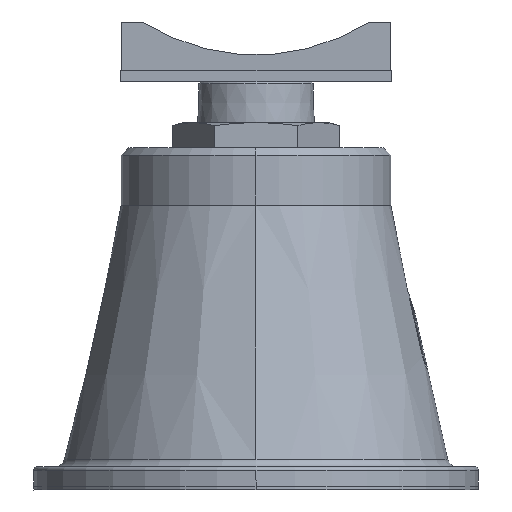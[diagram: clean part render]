
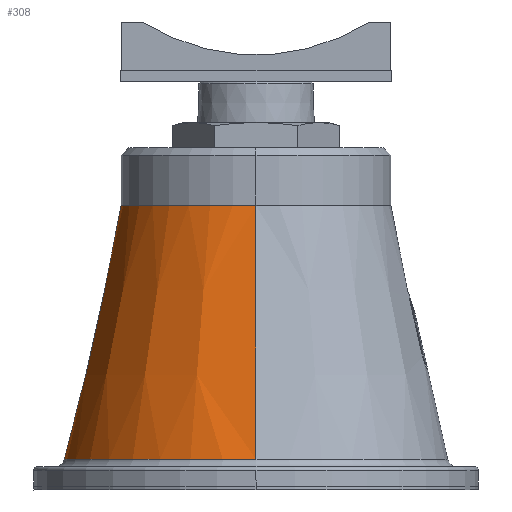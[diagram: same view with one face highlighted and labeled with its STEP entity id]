
A CAD part, left-side view. The second image highlights one B-rep face of the part: STEP entity #308.
In plain terms, the highlighted conical face has half-angle 12.633 degrees and reference radius 84.432 mm.
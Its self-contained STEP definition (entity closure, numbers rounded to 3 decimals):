
#308=ADVANCED_FACE('',(#643),#644,.T.);
#643=FACE_OUTER_BOUND('',#1040,.T.);
#644=CONICAL_SURFACE('',#1041,84.432,0.22);
#1040=EDGE_LOOP('',(#1736,#1737,#1738,#1739,#1740));
#1041=AXIS2_PLACEMENT_3D('',#1741,#1742,#1743);
#1736=ORIENTED_EDGE('',*,*,#2491,.T.);
#1737=ORIENTED_EDGE('',*,*,#2516,.F.);
#1738=ORIENTED_EDGE('',*,*,#2493,.T.);
#1739=ORIENTED_EDGE('',*,*,#2517,.T.);
#1740=ORIENTED_EDGE('',*,*,#2417,.T.);
#1741=CARTESIAN_POINT('',(439.249,513.297,-85.818));
#1742=DIRECTION('',(0.,0.,-1.0));
#1743=DIRECTION('',(-1.0,0.,0.));
#2417=EDGE_CURVE('',#2877,#2885,#2887,.T.);
#2491=EDGE_CURVE('',#2885,#3018,#3019,.T.);
#2493=EDGE_CURVE('',#3022,#3020,#3023,.T.);
#2516=EDGE_CURVE('',#3022,#3018,#3061,.T.);
#2517=EDGE_CURVE('',#3020,#2877,#3062,.T.);
#2877=VERTEX_POINT('',#3512);
#2885=VERTEX_POINT('',#3520);
#2887=CIRCLE('',#3522,99.123);
#3018=VERTEX_POINT('',#4113);
#3019=LINE('',#4114,#4115);
#3020=VERTEX_POINT('',#4116);
#3022=VERTEX_POINT('',#4118);
#3023=LINE('',#4119,#4120);
#3061=CIRCLE('',#4167,69.742);
#3062=CIRCLE('',#4168,99.123);
#3512=CARTESIAN_POINT('',(439.249,612.419,-151.36));
#3520=CARTESIAN_POINT('',(340.127,513.297,-151.36));
#3522=AXIS2_PLACEMENT_3D('',#4765,#4766,#4767);
#4113=CARTESIAN_POINT('',(369.508,513.297,-20.275));
#4114=CARTESIAN_POINT('',(354.817,513.297,-85.818));
#4115=VECTOR('',#4836,1.0);
#4116=CARTESIAN_POINT('',(538.372,513.297,-151.36));
#4118=CARTESIAN_POINT('',(508.991,513.297,-20.275));
#4119=CARTESIAN_POINT('',(523.681,513.297,-85.818));
#4120=VECTOR('',#4840,1.0);
#4167=AXIS2_PLACEMENT_3D('',#4883,#4884,#4885);
#4168=AXIS2_PLACEMENT_3D('',#4886,#4887,#4888);
#4765=CARTESIAN_POINT('',(439.249,513.297,-151.36));
#4766=DIRECTION('',(0.,0.,1.0));
#4767=DIRECTION('',(-1.0,0.,0.));
#4836=DIRECTION('',(0.219,0.,0.976));
#4840=DIRECTION('',(0.219,0.,-0.976));
#4883=CARTESIAN_POINT('',(439.249,513.297,-20.275));
#4884=DIRECTION('',(0.,0.,1.0));
#4885=DIRECTION('',(-1.0,0.,0.));
#4886=CARTESIAN_POINT('',(439.249,513.297,-151.36));
#4887=DIRECTION('',(0.,0.,1.0));
#4888=DIRECTION('',(-1.0,0.,0.));
